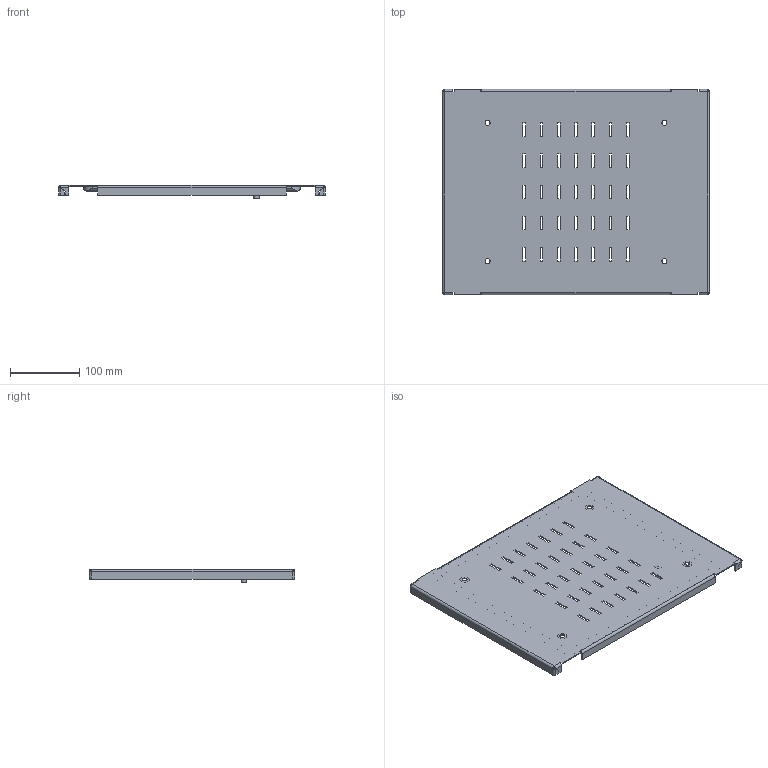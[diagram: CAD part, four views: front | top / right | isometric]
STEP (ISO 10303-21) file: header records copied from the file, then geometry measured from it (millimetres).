
FILE_DESCRIPTION(('STEP AP203'), '1');
FILE_NAME('Ïàíåëü ëèöåâàÿ ïåðôîðèðîâàííàÿ 300õ400 ìì OptiBox M 419520 ÊÝÀÇ', '', ('UNSPECIFIED'), ('UNSPECIFIED'), 'C3D Converter', 'C3D Toolkit', '');
FILE_SCHEMA(('CONFIG_CONTROL_DESIGN'));
Length unit declared in the file: millimetre
Bounding box: 386.4 x 297 x 18.9 mm (x, y, z)
Volume: 257240.8 mm3; surface area: 294364.8 mm2
Topology: 3 solids, 3 shells, 308 faces, 805 edges, 510 vertices
Faces by surface type: plane 249, cylinder 51, bspline 8
Full cylindrical faces by diameter (mm): 0.75 x1, 1 x1, 5 x2, 7.3 x4, 8 x1, 9.3 x1, 13 x1, 13.5 x4
Entity records: 10500 total; most frequent: CARTESIAN_POINT 2845, ORIENTED_EDGE 1580, DIRECTION 1426, EDGE_CURVE 790, LINE 684, VECTOR 684, VERTEX_POINT 510, EDGE_LOOP 414
